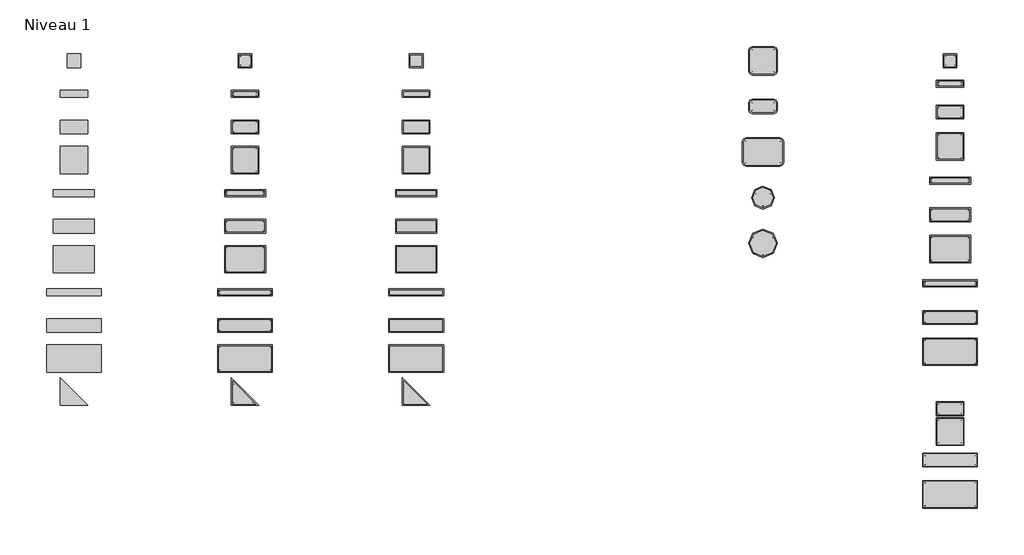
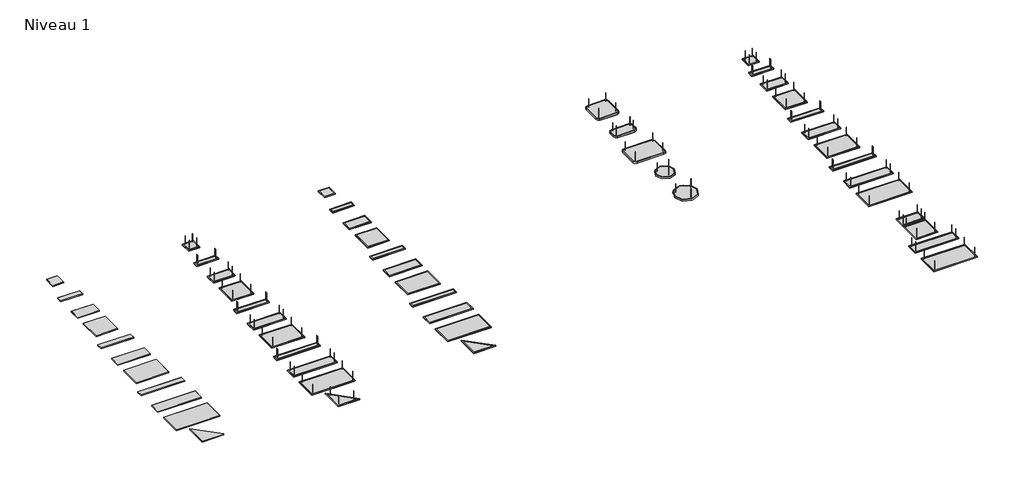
# One storey, incomplete: 52 proxies.
"""IFC4 building model written with IfcOpenShell, lengths in millimetres."""

from ifc_helpers import new_model, si_unit, origin, place, context, project, spatial, transform, mapped, element, save
from components import generic_models_2c8e060e, generic_models_03f6b46f, proxy_1199x1199x1595x55_72800263, proxy_1199x1199x1595x55_f587ef67, proxy_1199x1199x1595x55_0afc44db, proxy_1199x1199x55_f27266c2, proxy_1199x1199x55_df9f5cee, proxy_1199x1199x55_c54ed7a7, proxy_1199x1199x55_67f2c269, proxy_1199x1199x55_ec76d83f, proxy_1199x299x55_324788b6, proxy_1199x299x55_bfdfcd1e, proxy_1199x299x55_d9b5d045, proxy_1199x299x55_9eddac71, proxy_1199x599x55_5547e46f, proxy_1199x599x55_a8994fcc, proxy_1199x599x55_33c4f349, proxy_1199x599x55_c3871d19, proxy_1199x599x55_fd322afb, proxy_1250x1250x95_cf494940, proxy_1799x1199x55_3260623e, proxy_1799x1199x55_3171fdd1, proxy_1799x1199x55_41cc644f, proxy_1799x1199x55_a04ea0c2, proxy_1799x299x55_1cfde904, proxy_1799x299x55_0038d82a, proxy_1799x299x55_c0e4cccd, proxy_1799x299x55_9af79853, proxy_1799x599x55_90c91e49, proxy_1799x599x55_55e3c42d, proxy_1799x599x55_415995dc, proxy_1799x599x55_ae23710c, proxy_1800x1250x95_80d0d8ac, proxy_2399x1199x55_7cd0592e, proxy_2399x1199x55_500a141f, proxy_2399x1199x55_f2f002af, proxy_2399x1199x55_094451d5, proxy_2399x1199x55_af46190a, proxy_2399x299x55_89af78a4, proxy_2399x299x55_101fdd83, proxy_2399x299x55_a4a73a33, proxy_2399x299x55_9caddc88, proxy_2399x599x55_aaef1d60, proxy_2399x599x55_f09d77e6, proxy_2399x599x55_34f713ed, proxy_2399x599x55_9aabfa6b, proxy_2399x599x55_ef89b4d6, proxy_599x599x55_ac22d040, proxy_599x599x55_0c90e03f, proxy_599x599x55_c3c3b2f4, proxy_599x599x55_a6531e86, proxy_625x1250x95_d9c0cd38

model = new_model("IFC4")

# Units and contexts
model_context = context("Model", 3, world=origin())
ifc_project = project(units=[si_unit("LENGTHUNIT", "METRE", prefix="MILLI")], contexts=[model_context])

# Site, building, storey
site = spatial("IfcSite", under=ifc_project)
building = spatial("IfcBuilding", under=site)
storey = spatial("IfcBuildingStorey", under=building, Name="Niveau 1", Elevation=3000.0)

# Proxies
placement = place(None, origin())
generic_models_shape = generic_models_2c8e060e(model_context)
element("IfcBuildingElementProxy", 1, Name="Texaa_Coussin_Abso_Ronds_Suspendus_plafond : ø 1000x95", ObjectType="Texaa_Coussin_Abso_Ronds_Suspendus_plafond : ø 1000x95", at=placement, inside=storey, context=model_context, shape_type="MappedRepresentation", body=[
    mapped(generic_models_shape, transform((7700.0, -1435.0765666, 3000.0), x_axis=(1.0, 0.0, 0.0), y_axis=(0.0, -1.0, 0.0), z_axis=(0.0, 0.0, -1.0))),
])
generic_models_2_shape = generic_models_03f6b46f(model_context)
element("IfcBuildingElementProxy", 2, Name="Texaa_Coussin_Abso_Ronds_Suspendus_plafond : ø 1250x95", ObjectType="Texaa_Coussin_Abso_Ronds_Suspendus_plafond : ø 1250x95", at=placement, inside=storey, context=model_context, shape_type="MappedRepresentation", body=[
    mapped(generic_models_2_shape, transform((7700.0, -3435.0765666, 3000.0), x_axis=(1.0, 0.0, 0.0), y_axis=(0.0, -1.0, 0.0), z_axis=(0.0, 0.0, -1.0))),
])
proxy_1199x1199x1595x55_shape = proxy_1199x1199x1595x55_72800263(model_context)
element("IfcBuildingElementProxy", 3, Name="Texaa Panneaux Stereo fixés contre support par système magnétique séparés ou groupés au mur : 1199x1199x1595x55", ObjectType="Texaa Panneaux Stereo fixés contre support par système magnétique séparés ou groupés au mur : 1199x1199x1595x55", at=placement, inside=storey, context=model_context, shape_type="MappedRepresentation", body=[
    mapped(proxy_1199x1199x1595x55_shape, transform((-22500.0, -9935.0765666, 3000.0), x_axis=(1.0, 0.0, 0.0), y_axis=(0.0, 1.0, 0.0), z_axis=(0.0, 0.0, 1.0))),
])
proxy_1199x1199x1595x55_2_shape = proxy_1199x1199x1595x55_f587ef67(model_context)
element("IfcBuildingElementProxy", 4, Name="Texaa Panneaux Stereo fixés contre support par système magnétique séparés ou groupés au plafond : 1199x1199x1595x55", ObjectType="Texaa Panneaux Stereo fixés contre support par système magnétique séparés ou groupés au plafond : 1199x1199x1595x55", at=placement, inside=storey, context=model_context, shape_type="MappedRepresentation", body=[
    mapped(proxy_1199x1199x1595x55_2_shape, transform((-7500.0, -9935.0765666, 3000.0), x_axis=(1.0, 0.0, 0.0), y_axis=(0.0, -1.0, 0.0), z_axis=(0.0, 0.0, -1.0))),
])
proxy_1199x1199x1595x55_3_shape = proxy_1199x1199x1595x55_0afc44db(model_context)
element("IfcBuildingElementProxy", 5, Name="Texaa Panneaux_acoustiques Stereo suspendus_séparés : 1199x1199x1595x55", ObjectType="Texaa Panneaux_acoustiques Stereo suspendus_séparés : 1199x1199x1595x55", at=placement, inside=storey, context=model_context, shape_type="MappedRepresentation", body=[
    mapped(proxy_1199x1199x1595x55_3_shape, transform((-15000.0, -9935.0765666, 3000.0), x_axis=(1.0, 0.0, 0.0), y_axis=(0.0, -1.0, 0.0), z_axis=(0.0, 0.0, -1.0))),
])
proxy_1199x1199x55_shape = proxy_1199x1199x55_f27266c2(model_context)
element("IfcBuildingElementProxy", 6, Name="Texaa Panneaux Stereo fixés contre support par système magnétique séparés ou groupés au mur : 1199x1199x55", ObjectType="Texaa Panneaux Stereo fixés contre support par système magnétique séparés ou groupés au mur : 1199x1199x55", at=placement, inside=storey, context=model_context, shape_type="MappedRepresentation", body=[
    mapped(proxy_1199x1199x55_shape, transform((-22500.0, 214.9234334, 3000.0), x_axis=(1.0, 0.0, 0.0), y_axis=(0.0, 1.0, 0.0), z_axis=(0.0, 0.0, 1.0))),
])
proxy_1199x1199x55_2_shape = proxy_1199x1199x55_df9f5cee(model_context)
element("IfcBuildingElementProxy", 7, Name="Texaa Panneaux Stereo fixés contre support par système magnétique séparés ou groupés au plafond : 1199x1199x55", ObjectType="Texaa Panneaux Stereo fixés contre support par système magnétique séparés ou groupés au plafond : 1199x1199x55", at=placement, inside=storey, context=model_context, shape_type="MappedRepresentation", body=[
    mapped(proxy_1199x1199x55_2_shape, transform((-7500.0, 214.9234334, 3000.0), x_axis=(1.0, 0.0, 0.0), y_axis=(0.0, -1.0, 0.0), z_axis=(0.0, 0.0, -1.0))),
])
proxy_1199x1199x55_3_shape = proxy_1199x1199x55_c54ed7a7(model_context)
element("IfcBuildingElementProxy", 8, Name="Texaa Panneaux_acoustiques Stereo suspendus_séparés : 1199x1199x55", ObjectType="Texaa Panneaux_acoustiques Stereo suspendus_séparés : 1199x1199x55", at=placement, inside=storey, context=model_context, shape_type="MappedRepresentation", body=[
    mapped(proxy_1199x1199x55_3_shape, transform((-15000.0, 214.9234334, 3000.0), x_axis=(1.0, 0.0, 0.0), y_axis=(0.0, -1.0, 0.0), z_axis=(0.0, 0.0, -1.0))),
])
proxy_1199x1199x55_4_shape = proxy_1199x1199x55_67f2c269(model_context)
element("IfcBuildingElementProxy", 9, Name="Texaa_Plafond respirant_Strato_Panneaux absorbant : 1199x1199x55", ObjectType="Texaa_Plafond respirant_Strato_Panneaux absorbant : 1199x1199x55", at=placement, inside=storey, context=model_context, shape_type="MappedRepresentation", body=[
    mapped(proxy_1199x1199x55_4_shape, transform((15900.0, 814.9234334, 3000.0), x_axis=(1.0, 0.0, 0.0), y_axis=(0.0, -1.0, 0.0), z_axis=(0.0, 0.0, -1.0))),
])
proxy_1199x1199x55_5_shape = proxy_1199x1199x55_ec76d83f(model_context)
element("IfcBuildingElementProxy", 10, Name="Texaa_Plafond respirant_Strato_Panneaux respirant : 1199x1199x55", ObjectType="Texaa_Plafond respirant_Strato_Panneaux respirant : 1199x1199x55", at=placement, inside=storey, context=model_context, shape_type="MappedRepresentation", body=[
    mapped(proxy_1199x1199x55_5_shape, transform((15900.0, -11685.0765666, 3000.0), x_axis=(1.0, 0.0, 0.0), y_axis=(0.0, -1.0, 0.0), z_axis=(0.0, 0.0, -1.0))),
])
proxy_1199x299x55_shape = proxy_1199x299x55_324788b6(model_context)
element("IfcBuildingElementProxy", 11, Name="Texaa Panneaux Stereo fixés contre support par système magnétique séparés ou groupés au mur : 1199x299x55", ObjectType="Texaa Panneaux Stereo fixés contre support par système magnétique séparés ou groupés au mur : 1199x299x55", at=placement, inside=storey, context=model_context, shape_type="MappedRepresentation", body=[
    mapped(proxy_1199x299x55_shape, transform((-22500.0, 3114.9234334, 3000.0), x_axis=(1.0, 0.0, 0.0), y_axis=(0.0, 1.0, 0.0), z_axis=(0.0, 0.0, 1.0))),
])
proxy_1199x299x55_2_shape = proxy_1199x299x55_bfdfcd1e(model_context)
element("IfcBuildingElementProxy", 12, Name="Texaa Panneaux Stereo fixés contre support par système magnétique séparés ou groupés au plafond : 1199x299x55", ObjectType="Texaa Panneaux Stereo fixés contre support par système magnétique séparés ou groupés au plafond : 1199x299x55", at=placement, inside=storey, context=model_context, shape_type="MappedRepresentation", body=[
    mapped(proxy_1199x299x55_2_shape, transform((-7500.0, 3114.9234334, 3000.0), x_axis=(1.0, 0.0, 0.0), y_axis=(0.0, -1.0, 0.0), z_axis=(0.0, 0.0, -1.0))),
])
proxy_1199x299x55_3_shape = proxy_1199x299x55_d9b5d045(model_context)
element("IfcBuildingElementProxy", 13, Name="Texaa Panneaux_acoustiques Stereo suspendus_séparés : 1199x299x55", ObjectType="Texaa Panneaux_acoustiques Stereo suspendus_séparés : 1199x299x55", at=placement, inside=storey, context=model_context, shape_type="MappedRepresentation", body=[
    mapped(proxy_1199x299x55_3_shape, transform((-15000.0, 3114.9234334, 3000.0), x_axis=(1.0, 0.0, 0.0), y_axis=(0.0, -1.0, 0.0), z_axis=(0.0, 0.0, -1.0))),
])
proxy_1199x299x55_4_shape = proxy_1199x299x55_9eddac71(model_context)
element("IfcBuildingElementProxy", 14, Name="Texaa_Plafond respirant_Strato_Panneaux absorbant : 1199x299x55", ObjectType="Texaa_Plafond respirant_Strato_Panneaux absorbant : 1199x299x55", at=placement, inside=storey, context=model_context, shape_type="MappedRepresentation", body=[
    mapped(proxy_1199x299x55_4_shape, transform((15900.0, 3564.9234334, 3000.0), x_axis=(1.0, 0.0, 0.0), y_axis=(0.0, -1.0, 0.0), z_axis=(0.0, 0.0, -1.0))),
])
proxy_1199x599x55_shape = proxy_1199x599x55_5547e46f(model_context)
element("IfcBuildingElementProxy", 15, Name="Texaa Panneaux Stereo fixés contre support par système magnétique séparés ou groupés au mur : 1199x599x55", ObjectType="Texaa Panneaux Stereo fixés contre support par système magnétique séparés ou groupés au mur : 1199x599x55", at=placement, inside=storey, context=model_context, shape_type="MappedRepresentation", body=[
    mapped(proxy_1199x599x55_shape, transform((-22500.0, 1664.9234334, 3000.0), x_axis=(1.0, 0.0, 0.0), y_axis=(0.0, 1.0, 0.0), z_axis=(0.0, 0.0, 1.0))),
])
proxy_1199x599x55_2_shape = proxy_1199x599x55_a8994fcc(model_context)
element("IfcBuildingElementProxy", 16, Name="Texaa Panneaux Stereo fixés contre support par système magnétique séparés ou groupés au plafond : 1199x599x55", ObjectType="Texaa Panneaux Stereo fixés contre support par système magnétique séparés ou groupés au plafond : 1199x599x55", at=placement, inside=storey, context=model_context, shape_type="MappedRepresentation", body=[
    mapped(proxy_1199x599x55_2_shape, transform((-7500.0, 1664.9234334, 3000.0), x_axis=(1.0, 0.0, 0.0), y_axis=(0.0, -1.0, 0.0), z_axis=(0.0, 0.0, -1.0))),
])
proxy_1199x599x55_3_shape = proxy_1199x599x55_33c4f349(model_context)
element("IfcBuildingElementProxy", 17, Name="Texaa Panneaux_acoustiques Stereo suspendus_séparés : 1199x599x55", ObjectType="Texaa Panneaux_acoustiques Stereo suspendus_séparés : 1199x599x55", at=placement, inside=storey, context=model_context, shape_type="MappedRepresentation", body=[
    mapped(proxy_1199x599x55_3_shape, transform((-15000.0, 1664.9234334, 3000.0), x_axis=(1.0, 0.0, 0.0), y_axis=(0.0, -1.0, 0.0), z_axis=(0.0, 0.0, -1.0))),
])
proxy_1199x599x55_4_shape = proxy_1199x599x55_c3871d19(model_context)
element("IfcBuildingElementProxy", 18, Name="Texaa_Plafond respirant_Strato_Panneaux absorbant : 1199x599x55", ObjectType="Texaa_Plafond respirant_Strato_Panneaux absorbant : 1199x599x55", at=placement, inside=storey, context=model_context, shape_type="MappedRepresentation", body=[
    mapped(proxy_1199x599x55_4_shape, transform((15900.0, 2314.9234334, 3000.0), x_axis=(1.0, 0.0, 0.0), y_axis=(0.0, -1.0, 0.0), z_axis=(0.0, 0.0, -1.0))),
])
proxy_1199x599x55_5_shape = proxy_1199x599x55_fd322afb(model_context)
element("IfcBuildingElementProxy", 19, Name="Texaa_Plafond respirant_Strato_Panneaux respirant : 1199x599x55", ObjectType="Texaa_Plafond respirant_Strato_Panneaux respirant : 1199x599x55", at=placement, inside=storey, context=model_context, shape_type="MappedRepresentation", body=[
    mapped(proxy_1199x599x55_5_shape, transform((15900.0, -10685.0765666, 3000.0), x_axis=(1.0, 0.0, 0.0), y_axis=(0.0, -1.0, 0.0), z_axis=(0.0, 0.0, -1.0))),
])
proxy_1250x1250x95_shape = proxy_1250x1250x95_cf494940(model_context)
element("IfcBuildingElementProxy", 20, Name="Texaa_Coussin_Abso_Carré_Suspendus_plafond : 1250x1250x95", ObjectType="Texaa_Coussin_Abso_Carré_Suspendus_plafond : 1250x1250x95", at=placement, inside=storey, context=model_context, shape_type="MappedRepresentation", body=[
    mapped(proxy_1250x1250x95_shape, transform((7700.0, 4564.9234334, 3000.0), x_axis=(1.0, 0.0, 0.0), y_axis=(0.0, -1.0, 0.0), z_axis=(0.0, 0.0, -1.0))),
])
proxy_1799x1199x55_shape = proxy_1799x1199x55_3260623e(model_context)
element("IfcBuildingElementProxy", 21, Name="Texaa Panneaux Stereo fixés contre support par système magnétique séparés ou groupés au mur : 1799x1199x55", ObjectType="Texaa Panneaux Stereo fixés contre support par système magnétique séparés ou groupés au mur : 1799x1199x55", at=placement, inside=storey, context=model_context, shape_type="MappedRepresentation", body=[
    mapped(proxy_1799x1199x55_shape, transform((-22500.0, -4135.0765666, 3000.0), x_axis=(1.0, 0.0, 0.0), y_axis=(0.0, 1.0, 0.0), z_axis=(0.0, 0.0, 1.0))),
])
proxy_1799x1199x55_2_shape = proxy_1799x1199x55_3171fdd1(model_context)
element("IfcBuildingElementProxy", 22, Name="Texaa Panneaux Stereo fixés contre support par système magnétique séparés ou groupés au plafond : 1799x1199x55", ObjectType="Texaa Panneaux Stereo fixés contre support par système magnétique séparés ou groupés au plafond : 1799x1199x55", at=placement, inside=storey, context=model_context, shape_type="MappedRepresentation", body=[
    mapped(proxy_1799x1199x55_2_shape, transform((-7500.0, -4135.0765666, 3000.0), x_axis=(1.0, 0.0, 0.0), y_axis=(0.0, -1.0, 0.0), z_axis=(0.0, 0.0, -1.0))),
])
proxy_1799x1199x55_3_shape = proxy_1799x1199x55_41cc644f(model_context)
element("IfcBuildingElementProxy", 23, Name="Texaa Panneaux_acoustiques Stereo suspendus_séparés : 1799x1199x55", ObjectType="Texaa Panneaux_acoustiques Stereo suspendus_séparés : 1799x1199x55", at=placement, inside=storey, context=model_context, shape_type="MappedRepresentation", body=[
    mapped(proxy_1799x1199x55_3_shape, transform((-15000.0, -4135.0765666, 3000.0), x_axis=(1.0, 0.0, 0.0), y_axis=(0.0, -1.0, 0.0), z_axis=(0.0, 0.0, -1.0))),
])
proxy_1799x1199x55_4_shape = proxy_1799x1199x55_a04ea0c2(model_context)
element("IfcBuildingElementProxy", 24, Name="Texaa_Plafond respirant_Strato_Panneaux absorbant : 1799x1199x55", ObjectType="Texaa_Plafond respirant_Strato_Panneaux absorbant : 1799x1199x55", at=placement, inside=storey, context=model_context, shape_type="MappedRepresentation", body=[
    mapped(proxy_1799x1199x55_4_shape, transform((15900.0, -3685.0765666, 3000.0), x_axis=(1.0, 0.0, 0.0), y_axis=(0.0, -1.0, 0.0), z_axis=(0.0, 0.0, -1.0))),
])
proxy_1799x299x55_shape = proxy_1799x299x55_1cfde904(model_context)
element("IfcBuildingElementProxy", 25, Name="Texaa Panneaux Stereo fixés contre support par système magnétique séparés ou groupés au mur : 1799x299x55", ObjectType="Texaa Panneaux Stereo fixés contre support par système magnétique séparés ou groupés au mur : 1799x299x55", at=placement, inside=storey, context=model_context, shape_type="MappedRepresentation", body=[
    mapped(proxy_1799x299x55_shape, transform((-22500.0, -1235.0765666, 3000.0), x_axis=(1.0, 0.0, 0.0), y_axis=(0.0, 1.0, 0.0), z_axis=(0.0, 0.0, 1.0))),
])
proxy_1799x299x55_2_shape = proxy_1799x299x55_0038d82a(model_context)
element("IfcBuildingElementProxy", 26, Name="Texaa Panneaux Stereo fixés contre support par système magnétique séparés ou groupés au plafond : 1799x299x55", ObjectType="Texaa Panneaux Stereo fixés contre support par système magnétique séparés ou groupés au plafond : 1799x299x55", at=placement, inside=storey, context=model_context, shape_type="MappedRepresentation", body=[
    mapped(proxy_1799x299x55_2_shape, transform((-7500.0, -1235.0765666, 3000.0), x_axis=(1.0, 0.0, 0.0), y_axis=(0.0, -1.0, 0.0), z_axis=(0.0, 0.0, -1.0))),
])
proxy_1799x299x55_3_shape = proxy_1799x299x55_c0e4cccd(model_context)
element("IfcBuildingElementProxy", 27, Name="Texaa Panneaux_acoustiques Stereo suspendus_séparés : 1799x299x55", ObjectType="Texaa Panneaux_acoustiques Stereo suspendus_séparés : 1799x299x55", at=placement, inside=storey, context=model_context, shape_type="MappedRepresentation", body=[
    mapped(proxy_1799x299x55_3_shape, transform((-15000.0, -1235.0765666, 3000.0), x_axis=(1.0, 0.0, 0.0), y_axis=(0.0, -1.0, 0.0), z_axis=(0.0, 0.0, -1.0))),
])
proxy_1799x299x55_4_shape = proxy_1799x299x55_9af79853(model_context)
element("IfcBuildingElementProxy", 28, Name="Texaa_Plafond respirant_Strato_Panneaux absorbant : 1799x299x55", ObjectType="Texaa_Plafond respirant_Strato_Panneaux absorbant : 1799x299x55", at=placement, inside=storey, context=model_context, shape_type="MappedRepresentation", body=[
    mapped(proxy_1799x299x55_4_shape, transform((15900.0, -685.0765666, 3000.0), x_axis=(1.0, 0.0, 0.0), y_axis=(0.0, -1.0, 0.0), z_axis=(0.0, 0.0, -1.0))),
])
proxy_1799x599x55_shape = proxy_1799x599x55_90c91e49(model_context)
element("IfcBuildingElementProxy", 29, Name="Texaa Panneaux Stereo fixés contre support par système magnétique séparés ou groupés au mur : 1799x599x55", ObjectType="Texaa Panneaux Stereo fixés contre support par système magnétique séparés ou groupés au mur : 1799x599x55", at=placement, inside=storey, context=model_context, shape_type="MappedRepresentation", body=[
    mapped(proxy_1799x599x55_shape, transform((-22500.0, -2685.0765666, 3000.0), x_axis=(1.0, 0.0, 0.0), y_axis=(0.0, 1.0, 0.0), z_axis=(0.0, 0.0, 1.0))),
])
proxy_1799x599x55_2_shape = proxy_1799x599x55_55e3c42d(model_context)
element("IfcBuildingElementProxy", 30, Name="Texaa Panneaux Stereo fixés contre support par système magnétique séparés ou groupés au plafond : 1799x599x55", ObjectType="Texaa Panneaux Stereo fixés contre support par système magnétique séparés ou groupés au plafond : 1799x599x55", at=placement, inside=storey, context=model_context, shape_type="MappedRepresentation", body=[
    mapped(proxy_1799x599x55_2_shape, transform((-7500.0, -2685.0765666, 3000.0), x_axis=(1.0, 0.0, 0.0), y_axis=(0.0, -1.0, 0.0), z_axis=(0.0, 0.0, -1.0))),
])
proxy_1799x599x55_3_shape = proxy_1799x599x55_415995dc(model_context)
element("IfcBuildingElementProxy", 31, Name="Texaa Panneaux_acoustiques Stereo suspendus_séparés : 1799x599x55", ObjectType="Texaa Panneaux_acoustiques Stereo suspendus_séparés : 1799x599x55", at=placement, inside=storey, context=model_context, shape_type="MappedRepresentation", body=[
    mapped(proxy_1799x599x55_3_shape, transform((-15000.0, -2685.0765666, 3000.0), x_axis=(1.0, 0.0, 0.0), y_axis=(0.0, -1.0, 0.0), z_axis=(0.0, 0.0, -1.0))),
])
proxy_1799x599x55_4_shape = proxy_1799x599x55_ae23710c(model_context)
element("IfcBuildingElementProxy", 32, Name="Texaa_Plafond respirant_Strato_Panneaux absorbant : 1799x599x55", ObjectType="Texaa_Plafond respirant_Strato_Panneaux absorbant : 1799x599x55", at=placement, inside=storey, context=model_context, shape_type="MappedRepresentation", body=[
    mapped(proxy_1799x599x55_4_shape, transform((15900.0, -2185.0765666, 3000.0), x_axis=(1.0, 0.0, 0.0), y_axis=(0.0, -1.0, 0.0), z_axis=(0.0, 0.0, -1.0))),
])
proxy_1800x1250x95_shape = proxy_1800x1250x95_80d0d8ac(model_context)
element("IfcBuildingElementProxy", 33, Name="Texaa_Coussin_Abso_Rectangles_Suspendus_plafond : 1800x1250x95", ObjectType="Texaa_Coussin_Abso_Rectangles_Suspendus_plafond : 1800x1250x95", at=placement, inside=storey, context=model_context, shape_type="MappedRepresentation", body=[
    mapped(proxy_1800x1250x95_shape, transform((7700.0, 564.9234334, 3000.0), x_axis=(0.0, 1.0, 0.0), y_axis=(1.0, 0.0, 0.0), z_axis=(0.0, 0.0, -1.0))),
])
proxy_2399x1199x55_shape = proxy_2399x1199x55_7cd0592e(model_context)
element("IfcBuildingElementProxy", 34, Name="Texaa Panneaux Stereo fixés contre support par système magnétique séparés ou groupés au mur : 2399x1199x55", ObjectType="Texaa Panneaux Stereo fixés contre support par système magnétique séparés ou groupés au mur : 2399x1199x55", at=placement, inside=storey, context=model_context, shape_type="MappedRepresentation", body=[
    mapped(proxy_2399x1199x55_shape, transform((-22500.0, -8485.0765666, 3000.0), x_axis=(1.0, 0.0, 0.0), y_axis=(0.0, 1.0, 0.0), z_axis=(0.0, 0.0, 1.0))),
])
proxy_2399x1199x55_2_shape = proxy_2399x1199x55_500a141f(model_context)
element("IfcBuildingElementProxy", 35, Name="Texaa Panneaux Stereo fixés contre support par système magnétique séparés ou groupés au plafond : 2399x1199x55", ObjectType="Texaa Panneaux Stereo fixés contre support par système magnétique séparés ou groupés au plafond : 2399x1199x55", at=placement, inside=storey, context=model_context, shape_type="MappedRepresentation", body=[
    mapped(proxy_2399x1199x55_2_shape, transform((-7500.0, -8485.0765666, 3000.0), x_axis=(1.0, 0.0, 0.0), y_axis=(0.0, -1.0, 0.0), z_axis=(0.0, 0.0, -1.0))),
])
proxy_2399x1199x55_3_shape = proxy_2399x1199x55_f2f002af(model_context)
element("IfcBuildingElementProxy", 36, Name="Texaa Panneaux_acoustiques Stereo suspendus_séparés : 2399x1199x55", ObjectType="Texaa Panneaux_acoustiques Stereo suspendus_séparés : 2399x1199x55", at=placement, inside=storey, context=model_context, shape_type="MappedRepresentation", body=[
    mapped(proxy_2399x1199x55_3_shape, transform((-15000.0, -8485.0765666, 3000.0), x_axis=(1.0, 0.0, 0.0), y_axis=(0.0, -1.0, 0.0), z_axis=(0.0, 0.0, -1.0))),
])
proxy_2399x1199x55_4_shape = proxy_2399x1199x55_094451d5(model_context)
element("IfcBuildingElementProxy", 37, Name="Texaa_Plafond respirant_Strato_Panneaux absorbant : 2399x1199x55", ObjectType="Texaa_Plafond respirant_Strato_Panneaux absorbant : 2399x1199x55", at=placement, inside=storey, context=model_context, shape_type="MappedRepresentation", body=[
    mapped(proxy_2399x1199x55_4_shape, transform((15900.0, -8185.0765666, 3000.0), x_axis=(1.0, 0.0, 0.0), y_axis=(0.0, -1.0, 0.0), z_axis=(0.0, 0.0, -1.0))),
])
proxy_2399x1199x55_5_shape = proxy_2399x1199x55_af46190a(model_context)
element("IfcBuildingElementProxy", 38, Name="Texaa_Plafond respirant_Strato_Panneaux respirant : 2399x1199x55", ObjectType="Texaa_Plafond respirant_Strato_Panneaux respirant : 2399x1199x55", at=placement, inside=storey, context=model_context, shape_type="MappedRepresentation", body=[
    mapped(proxy_2399x1199x55_5_shape, transform((15900.0, -14435.0765666, 3000.0), x_axis=(1.0, 0.0, 0.0), y_axis=(0.0, -1.0, 0.0), z_axis=(0.0, 0.0, -1.0))),
])
proxy_2399x299x55_shape = proxy_2399x299x55_89af78a4(model_context)
element("IfcBuildingElementProxy", 39, Name="Texaa Panneaux Stereo fixés contre support par système magnétique séparés ou groupés au mur : 2399x299x55", ObjectType="Texaa Panneaux Stereo fixés contre support par système magnétique séparés ou groupés au mur : 2399x299x55", at=placement, inside=storey, context=model_context, shape_type="MappedRepresentation", body=[
    mapped(proxy_2399x299x55_shape, transform((-22500.0, -5585.0765666, 3000.0), x_axis=(1.0, 0.0, 0.0), y_axis=(0.0, 1.0, 0.0), z_axis=(0.0, 0.0, 1.0))),
])
proxy_2399x299x55_2_shape = proxy_2399x299x55_101fdd83(model_context)
element("IfcBuildingElementProxy", 40, Name="Texaa Panneaux Stereo fixés contre support par système magnétique séparés ou groupés au plafond : 2399x299x55", ObjectType="Texaa Panneaux Stereo fixés contre support par système magnétique séparés ou groupés au plafond : 2399x299x55", at=placement, inside=storey, context=model_context, shape_type="MappedRepresentation", body=[
    mapped(proxy_2399x299x55_2_shape, transform((-7500.0, -5585.0765666, 3000.0), x_axis=(1.0, 0.0, 0.0), y_axis=(0.0, -1.0, 0.0), z_axis=(0.0, 0.0, -1.0))),
])
proxy_2399x299x55_3_shape = proxy_2399x299x55_a4a73a33(model_context)
element("IfcBuildingElementProxy", 41, Name="Texaa Panneaux_acoustiques Stereo suspendus_séparés : 2399x299x55", ObjectType="Texaa Panneaux_acoustiques Stereo suspendus_séparés : 2399x299x55", at=placement, inside=storey, context=model_context, shape_type="MappedRepresentation", body=[
    mapped(proxy_2399x299x55_3_shape, transform((-15000.0, -5585.0765666, 3000.0), x_axis=(1.0, 0.0, 0.0), y_axis=(0.0, -1.0, 0.0), z_axis=(0.0, 0.0, -1.0))),
])
proxy_2399x299x55_4_shape = proxy_2399x299x55_9caddc88(model_context)
element("IfcBuildingElementProxy", 42, Name="Texaa_Plafond respirant_Strato_Panneaux absorbant : 2399x299x55", ObjectType="Texaa_Plafond respirant_Strato_Panneaux absorbant : 2399x299x55", at=placement, inside=storey, context=model_context, shape_type="MappedRepresentation", body=[
    mapped(proxy_2399x299x55_4_shape, transform((15900.0, -5185.0765666, 3000.0), x_axis=(1.0, 0.0, 0.0), y_axis=(0.0, -1.0, 0.0), z_axis=(0.0, 0.0, -1.0))),
])
proxy_2399x599x55_shape = proxy_2399x599x55_aaef1d60(model_context)
element("IfcBuildingElementProxy", 43, Name="Texaa Panneaux Stereo fixés contre support par système magnétique séparés ou groupés au mur : 2399x599x55", ObjectType="Texaa Panneaux Stereo fixés contre support par système magnétique séparés ou groupés au mur : 2399x599x55", at=placement, inside=storey, context=model_context, shape_type="MappedRepresentation", body=[
    mapped(proxy_2399x599x55_shape, transform((-22500.0, -7035.0765666, 3000.0), x_axis=(1.0, 0.0, 0.0), y_axis=(0.0, 1.0, 0.0), z_axis=(0.0, 0.0, 1.0))),
])
proxy_2399x599x55_2_shape = proxy_2399x599x55_f09d77e6(model_context)
element("IfcBuildingElementProxy", 44, Name="Texaa Panneaux Stereo fixés contre support par système magnétique séparés ou groupés au plafond : 2399x599x55", ObjectType="Texaa Panneaux Stereo fixés contre support par système magnétique séparés ou groupés au plafond : 2399x599x55", at=placement, inside=storey, context=model_context, shape_type="MappedRepresentation", body=[
    mapped(proxy_2399x599x55_2_shape, transform((-7500.0, -7035.0765666, 3000.0), x_axis=(1.0, 0.0, 0.0), y_axis=(0.0, -1.0, 0.0), z_axis=(0.0, 0.0, -1.0))),
])
proxy_2399x599x55_3_shape = proxy_2399x599x55_34f713ed(model_context)
element("IfcBuildingElementProxy", 45, Name="Texaa Panneaux_acoustiques Stereo suspendus_séparés : 2399x599x55", ObjectType="Texaa Panneaux_acoustiques Stereo suspendus_séparés : 2399x599x55", at=placement, inside=storey, context=model_context, shape_type="MappedRepresentation", body=[
    mapped(proxy_2399x599x55_3_shape, transform((-15000.0, -7035.0765666, 3000.0), x_axis=(1.0, 0.0, 0.0), y_axis=(0.0, -1.0, 0.0), z_axis=(0.0, 0.0, -1.0))),
])
proxy_2399x599x55_4_shape = proxy_2399x599x55_9aabfa6b(model_context)
element("IfcBuildingElementProxy", 46, Name="Texaa_Plafond respirant_Strato_Panneaux absorbant : 2399x599x55", ObjectType="Texaa_Plafond respirant_Strato_Panneaux absorbant : 2399x599x55", at=placement, inside=storey, context=model_context, shape_type="MappedRepresentation", body=[
    mapped(proxy_2399x599x55_4_shape, transform((15900.0, -6685.0765666, 3000.0), x_axis=(1.0, 0.0, 0.0), y_axis=(0.0, -1.0, 0.0), z_axis=(0.0, 0.0, -1.0))),
])
proxy_2399x599x55_5_shape = proxy_2399x599x55_ef89b4d6(model_context)
element("IfcBuildingElementProxy", 47, Name="Texaa_Plafond respirant_Strato_Panneaux respirant : 2399x599x55", ObjectType="Texaa_Plafond respirant_Strato_Panneaux respirant : 2399x599x55", at=placement, inside=storey, context=model_context, shape_type="MappedRepresentation", body=[
    mapped(proxy_2399x599x55_5_shape, transform((15900.0, -12935.0765666, 3000.0), x_axis=(1.0, 0.0, 0.0), y_axis=(0.0, -1.0, 0.0), z_axis=(0.0, 0.0, -1.0))),
])
proxy_599x599x55_shape = proxy_599x599x55_ac22d040(model_context)
element("IfcBuildingElementProxy", 48, Name="Texaa Panneaux Stereo fixés contre support par système magnétique séparés ou groupés au mur : 599x599x55", ObjectType="Texaa Panneaux Stereo fixés contre support par système magnétique séparés ou groupés au mur : 599x599x55", at=placement, inside=storey, context=model_context, shape_type="MappedRepresentation", body=[
    mapped(proxy_599x599x55_shape, transform((-22500.0, 4564.9234334, 3000.0), x_axis=(1.0, 0.0, 0.0), y_axis=(0.0, 1.0, 0.0), z_axis=(0.0, 0.0, 1.0))),
])
proxy_599x599x55_2_shape = proxy_599x599x55_0c90e03f(model_context)
element("IfcBuildingElementProxy", 49, Name="Texaa Panneaux Stereo fixés contre support par système magnétique séparés ou groupés au plafond : 599x599x55", ObjectType="Texaa Panneaux Stereo fixés contre support par système magnétique séparés ou groupés au plafond : 599x599x55", at=placement, inside=storey, context=model_context, shape_type="MappedRepresentation", body=[
    mapped(proxy_599x599x55_2_shape, transform((-7500.0, 4564.9234334, 3000.0), x_axis=(1.0, 0.0, 0.0), y_axis=(0.0, -1.0, 0.0), z_axis=(0.0, 0.0, -1.0))),
])
proxy_599x599x55_3_shape = proxy_599x599x55_c3c3b2f4(model_context)
element("IfcBuildingElementProxy", 50, Name="Texaa Panneaux_acoustiques Stereo suspendus_séparés : 599x599x55", ObjectType="Texaa Panneaux_acoustiques Stereo suspendus_séparés : 599x599x55", at=placement, inside=storey, context=model_context, shape_type="MappedRepresentation", body=[
    mapped(proxy_599x599x55_3_shape, transform((-15000.0, 4564.9234334, 3000.0), x_axis=(1.0, 0.0, 0.0), y_axis=(0.0, -1.0, 0.0), z_axis=(0.0, 0.0, -1.0))),
])
proxy_599x599x55_4_shape = proxy_599x599x55_a6531e86(model_context)
element("IfcBuildingElementProxy", 51, Name="Texaa_Plafond respirant_Strato_Panneaux absorbant : 599x599x55", ObjectType="Texaa_Plafond respirant_Strato_Panneaux absorbant : 599x599x55", at=placement, inside=storey, context=model_context, shape_type="MappedRepresentation", body=[
    mapped(proxy_599x599x55_4_shape, transform((15900.0, 4564.9234334, 3000.0), x_axis=(1.0, 0.0, 0.0), y_axis=(0.0, -1.0, 0.0), z_axis=(0.0, 0.0, -1.0))),
])
proxy_625x1250x95_shape = proxy_625x1250x95_d9c0cd38(model_context)
element("IfcBuildingElementProxy", 52, Name="Texaa_Coussin_Abso_Rectangles_Suspendus_plafond : 625x1250x95", ObjectType="Texaa_Coussin_Abso_Rectangles_Suspendus_plafond : 625x1250x95", at=placement, inside=storey, context=model_context, shape_type="MappedRepresentation", body=[
    mapped(proxy_625x1250x95_shape, transform((7700.0, 2564.9234334, 3000.0), x_axis=(1.0, 0.0, 0.0), y_axis=(0.0, -1.0, 0.0), z_axis=(0.0, 0.0, -1.0))),
])

save(model, "model.ifc")
